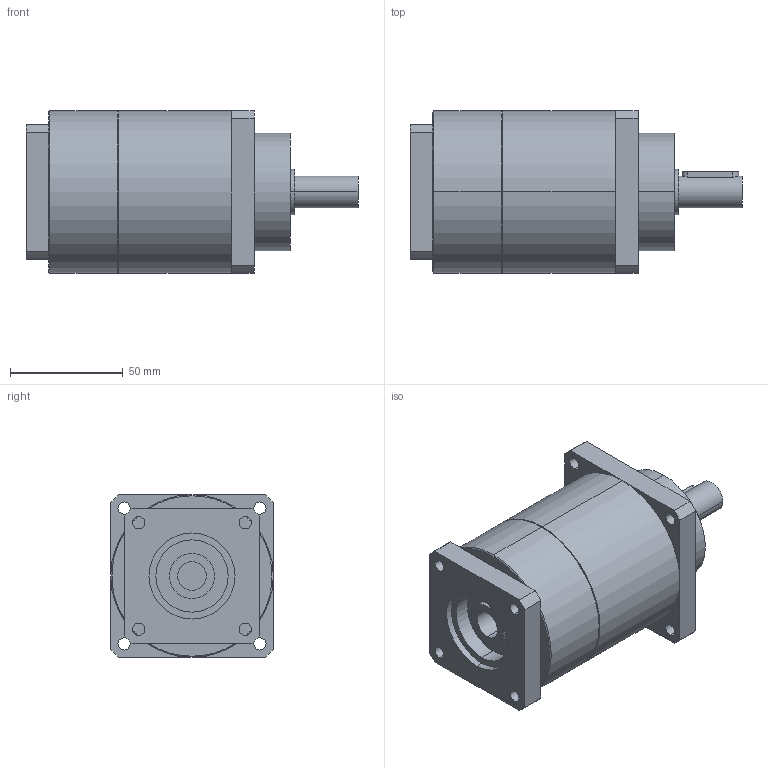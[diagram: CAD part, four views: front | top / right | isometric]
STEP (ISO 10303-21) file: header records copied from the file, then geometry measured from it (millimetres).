
FILE_DESCRIPTION(('CoCreate Modeling STEP Export'),'2;1');
FILE_NAME('GPT75_ig-9-12-16-20-25-28-35-40-50-70-100_14_B5T_12.7_P02.stp','2014-08-27T13:35:03',(''),(''),'CoCreate Modeling STEP processor for AP214 (Solid Model)','CoCreate Modeling 16.00C 25-Feb-2009 (C) Parametric Technology GmbH','');
FILE_SCHEMA(('AUTOMOTIVE_DESIGN { 1 0 10303 214 1 1 1 1 }'));
Length unit declared in the file: millimetre
Products named in the file (2): GPT75_ig-9-12-16-20-25-28-35-40-50-70-100_14_B5T_12.7_P02
Assembly tree (1 placements, depth 2):
  GPT75_ig-9-12-16-20-25-28-35-40-50-70-100_14_B5T_12.7_P02
    GPT75_ig-9-12-16-20-25-28-35-40-50-70-100_14_B5T_12.7_P02
Bounding box: 147 x 72 x 72 mm (x, y, z)
Volume: 442132.7 mm3; surface area: 42245.5 mm2
Topology: 1 solids, 1 shells, 88 faces, 226 edges, 145 vertices
Faces by surface type: cylinder 46, plane 38, cone 4
Entity records: 2676 total; most frequent: CARTESIAN_POINT 744, ORIENTED_EDGE 452, DIRECTION 334, EDGE_CURVE 226, VERTEX_POINT 145, AXIS2_PLACEMENT_3D 123, EDGE_LOOP 109, VECTOR 88
